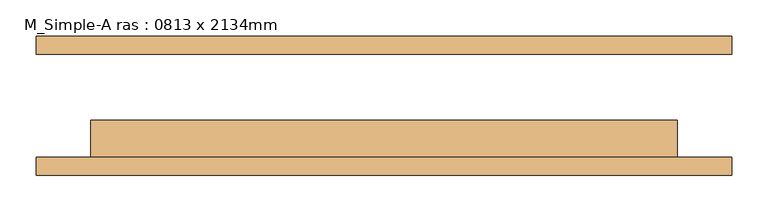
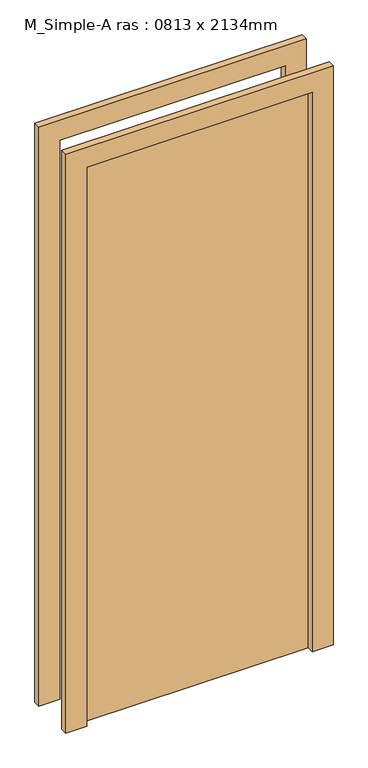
"""IFC4 building model written with IfcOpenShell, lengths in millimetres: door geometry, M_Simple-A ras : 0813 x 2134mm."""

from ifc_helpers import new_model, si_unit, frame, origin, origin_with_axes, place, context, project, spatial, polyline, outline, extrude, source, transform, mapped, element, save


def m_simple_a_ras_0813_x_2134mm_d0a8a436(model_context):
    return source(origin(), model_context, "Body", "SweptSolid", [
        extrude(outline(polyline([(2210.0, -482.5), (0.0, -482.5), (0.0, -406.5), (2134.0, -406.5), (2134.0, 406.5), (0.0, 406.5), (0.0, 482.5), (2210.0, 482.5), (2210.0, -482.5)])), frame((0.0, -96.5, 0.0), z_axis=(0.0, 1.0, 0.0), x_axis=(0.0, 0.0, 1.0)), (0.0, 0.0, 1.0), 25.0),
        extrude(outline(polyline([(2210.0, 482.5), (2210.0, -482.5), (0.0, -482.5), (0.0, -406.5), (2134.0, -406.5), (2134.0, 406.5), (0.0, 406.5), (0.0, 482.5), (2210.0, 482.5)])), frame((0.0, 71.5, 0.0), z_axis=(0.0, 1.0, 0.0), x_axis=(0.0, 0.0, 1.0)), (0.0, 0.0, 1.0), 25.0),
        extrude(outline(polyline([(406.5, -20.5), (406.5, -71.5), (-406.5, -71.5), (-406.5, -20.5), (406.5, -20.5)])), origin_with_axes(), (0.0, 0.0, 1.0), 2134.0),
    ])


if __name__ == "__main__":
    model = new_model("IFC4")
    model_context = context("Model", 3, world=origin())
    ifc_project = project(units=[si_unit("LENGTHUNIT", "METRE", prefix="MILLI")], contexts=[model_context])
    site = spatial("IfcSite", under=ifc_project)
    building = spatial("IfcBuilding", under=site)
    placement = place(None, origin())
    m_simple_a_ras_0813_x_2134mm_shape = m_simple_a_ras_0813_x_2134mm_d0a8a436(model_context)
    element("IfcDoor", 1, ObjectType="M_Simple-A ras : 0813 x 2134mm", at=placement, inside=building, context=model_context, shape_type="MappedRepresentation", body=[
        mapped(m_simple_a_ras_0813_x_2134mm_shape, transform((0.0, 0.0, 0.0), x_axis=(1.0, 0.0, 0.0), y_axis=(0.0, 1.0, 0.0), z_axis=(0.0, 0.0, 1.0))),
    ])
    save(model, "model.ifc")
